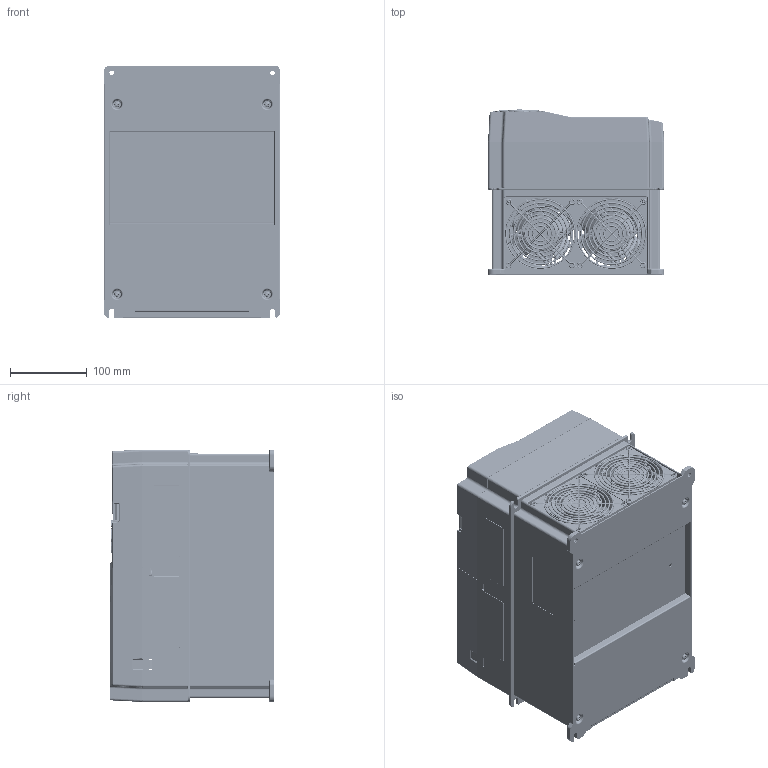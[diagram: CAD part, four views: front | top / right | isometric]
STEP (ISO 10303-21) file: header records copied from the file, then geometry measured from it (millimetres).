
FILE_DESCRIPTION(('HD2-38A-43-UL'),'2;1');
FILE_NAME('HD2-38A-43-UL_ASM','2019-10-21T',('IMO'),(''),'PRO/ENGINEER BY PARAMETRIC TECHNOLOGY CORPORATION, 2010100','PRO/ENGINEER BY PARAMETRIC TECHNOLOGY CORPORATION, 2010100','');
FILE_SCHEMA(('CONFIG_CONTROL_DESIGN'));
Products named in the file (51): 80740007; 80740006; 80310002; PCB_TERMINAL-M5X11; TB1000-05_BODY; TB1000-05_TER; OJHZ-1000-S-18; OJHZ-1000-LDYAP-18; TB1000-05_SCREWASSEMMLY_ASM; TB1000-05_ASM; TB1700-1_72; TB1700-2_44; TB1700-3_13; TB1450-00-5_4; TB1450-00-C-1_1; TB1450-00-C-2_1; TB1450-00-C-3_8; TB1450-00-C_ASM_1_ASM; _TB1700_ASM_25; TB1700_ASM_25_ASM; TB1450A-06_ASM_ASM; DRIVE_PCBA_CHE200_ASM; FAN_92; FENGSHANWANG; FAN_80; 89300001; 80740214; GB809-M4X6A; 80740214_ASM; 0_HD2_PCB_ASM; 80780073; 80880576; 80880576_ASM; 80810163; 80740019; 80810164; 80740163; 80740162; 80880456; 80880456SY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
Assembly tree (118 placements, depth 6):
  HD2-38A-43-UL_ASM
    80740007
    80740006
    80310002
    DRIVE_PCBA_CHE200_ASM
      PCB_TERMINAL-M5X11  x2
      TB1000-05_ASM
        TB1000-05_BODY
        TB1000-05_TER  x2
        TB1000-05_SCREWASSEMMLY_ASM  x2
          OJHZ-1000-S-18
          OJHZ-1000-LDYAP-18
      TB1450A-06_ASM_ASM
        TB1700_ASM_25_ASM
          TB1700-1_72
          TB1700-2_44  x9
          TB1700-3_13  x2
          TB1450-00-5_4  x9
          TB1450-00-C_ASM_1_ASM  x9
            TB1450-00-C-1_1
            TB1450-00-C-2_1
            TB1450-00-C-3_8
          _TB1700_ASM_25
    FAN_92  x2
    FENGSHANWANG  x2
    FAN_80  x2
    89300001
    80740214_ASM
      80740214
      GB809-M4X6A  x6
    0_HD2_PCB_ASM
    80780073
    80880576_ASM
      80880576
      GB809-M4X6A
    80810163
    80740019  x4
    80810164
    KEY-LCD01-ZY-350_ASM
      80740163
      40810091_ASM
        80740162
        80880456
        80880456SY
      80740164
      80740164SY
      80880455
    FS-18G5-UL_ASM
      77340010
      GB9074_4_M4X12  x23
      GB9074_13_M5X16  x4
      GB9074_13_M5X12  x4
Bounding box: 230.8 x 215.37 x 330.5 mm (x, y, z)
Volume: 2437790.4 mm3; surface area: 2180606.8 mm2
Topology: 125 solids, 130 shells, 20016 faces, 55690 edges, 36015 vertices
Faces by surface type: plane 11632, cylinder 4944, bspline 1238, torus 951, cone 587, extrusion 523, sphere 109, revolution 32
Entity records: 519373 total; most frequent: CARTESIAN_POINT 146532, ORIENTED_EDGE 80970, DIRECTION 72295, EDGE_CURVE 40491, VECTOR 29317, LINE 28808, VERTEX_POINT 26177, AXIS2_PLACEMENT_3D 21481
